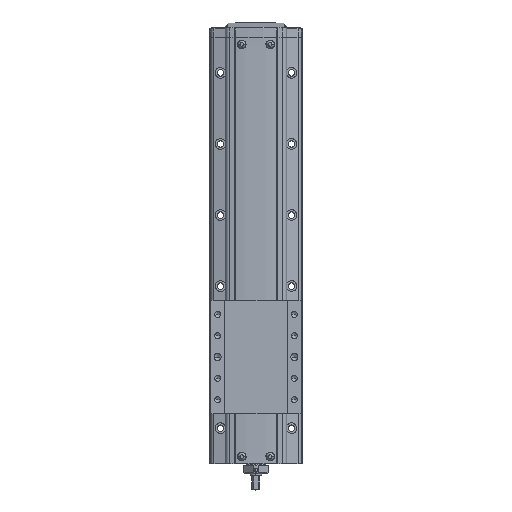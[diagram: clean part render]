
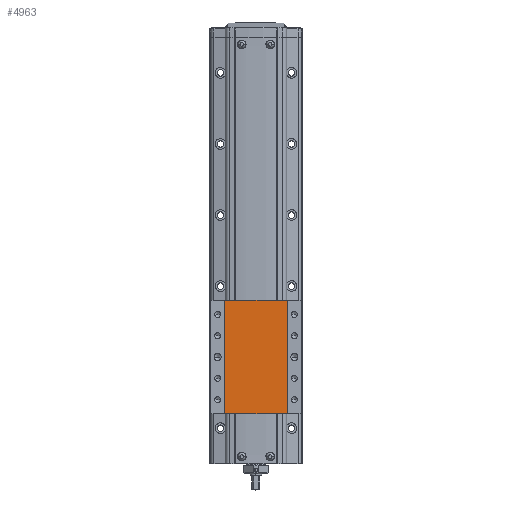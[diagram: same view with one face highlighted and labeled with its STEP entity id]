
A CAD part, top view. The second image highlights one B-rep face of the part: STEP entity #4963.
In plain terms, the highlighted planar face has unit normal (0, 0, 1).
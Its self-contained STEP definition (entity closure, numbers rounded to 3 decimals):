
#4963=ADVANCED_FACE('',(#9926),#9927,.F.);
#9926=FACE_OUTER_BOUND('',#15781,.T.);
#9927=PLANE('',#15782);
#15781=EDGE_LOOP('',(#29777,#29778,#29779,#29780));
#15782=AXIS2_PLACEMENT_3D('',#29781,#29782,#29783);
#29777=ORIENTED_EDGE('',*,*,#34012,.F.);
#29778=ORIENTED_EDGE('',*,*,#35106,.F.);
#29779=ORIENTED_EDGE('',*,*,#35969,.F.);
#29780=ORIENTED_EDGE('',*,*,#32098,.T.);
#29781=CARTESIAN_POINT('',(311.,200.0,26.7));
#29782=DIRECTION('',(0.,0.,-1.0));
#29783=DIRECTION('',(-1.0,0.,0.));
#32098=EDGE_CURVE('',#38851,#38848,#38852,.T.);
#34012=EDGE_CURVE('',#41867,#38848,#41869,.T.);
#35106=EDGE_CURVE('',#43340,#41867,#43342,.T.);
#35969=EDGE_CURVE('',#38851,#43340,#44395,.T.);
#38848=VERTEX_POINT('',#48311);
#38851=VERTEX_POINT('',#48315);
#38852=LINE('',#48316,#48317);
#41867=VERTEX_POINT('',#52781);
#41869=LINE('',#52784,#52785);
#43340=VERTEX_POINT('',#54958);
#43342=LINE('',#54961,#54962);
#44395=LINE('',#56499,#56500);
#48311=CARTESIAN_POINT('',(322.,280.0,26.7));
#48315=CARTESIAN_POINT('',(322.,200.0,26.7));
#48316=CARTESIAN_POINT('',(322.,200.0,26.7));
#48317=VECTOR('',#58799,10.0);
#52781=CARTESIAN_POINT('',(278.,280.0,26.7));
#52784=CARTESIAN_POINT('',(300.,280.0,26.7));
#52785=VECTOR('',#61113,10.0);
#54958=CARTESIAN_POINT('',(278.,200.0,26.7));
#54961=CARTESIAN_POINT('',(278.,200.0,26.7));
#54962=VECTOR('',#62229,10.0);
#56499=CARTESIAN_POINT('',(322.,200.0,26.7));
#56500=VECTOR('',#63045,10.0);
#58799=DIRECTION('',(0.,1.0,0.));
#61113=DIRECTION('',(1.0,0.,0.));
#62229=DIRECTION('',(0.,1.0,0.));
#63045=DIRECTION('',(-1.0,0.,0.));
